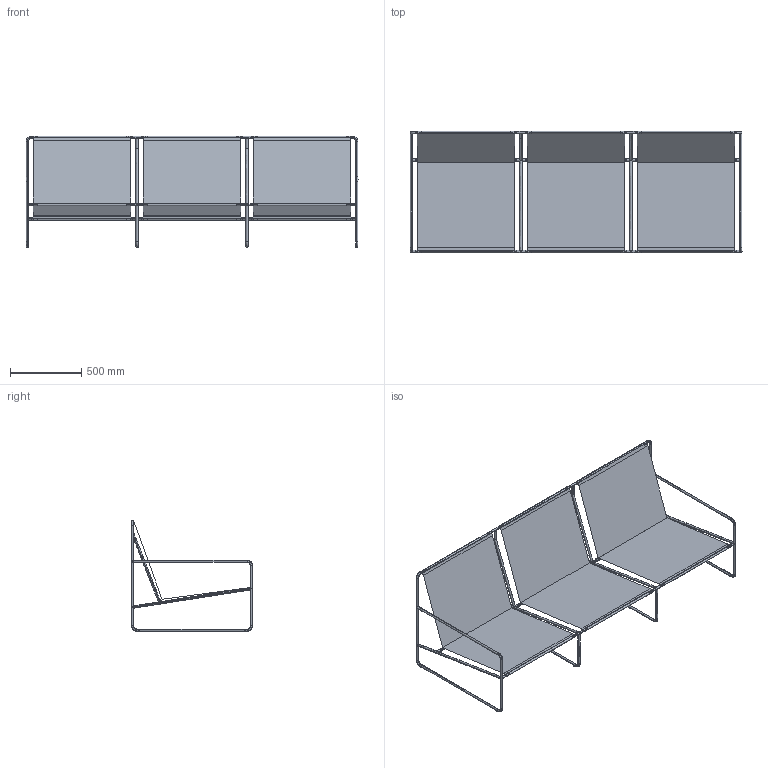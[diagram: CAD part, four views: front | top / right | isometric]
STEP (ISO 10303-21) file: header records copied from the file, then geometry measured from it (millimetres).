
FILE_DESCRIPTION(/* description */ (''),/* implementation_level */ '2;1');
FILE_NAME(/* name */ 'Desert Sofa_3seater',/* time_stamp */ '2022-02-09T14:57:38+01:00',/* author */ (''),/* organization */ (''),/* preprocessor_version */ 'ST-DEVELOPER v16.5',/* originating_system */ 'Rhino 7.14',/* authorisation */ '');
FILE_SCHEMA (('CONFIG_CONTROL_DESIGN'));
Length unit declared in the file: millimetre
Products named in the file (1): Document
Bounding box: 2332 x 851.98 x 783.51 mm (x, y, z)
Volume: 2621957.7 mm3; surface area: 4397997.1 mm2
Topology: 21 solids, 35 shells, 590 faces, 1621 edges, 957 vertices
Faces by surface type: cylinder 334, bspline 186, plane 70
Entity records: 28513 total; most frequent: CARTESIAN_POINT 18843, ORIENTED_EDGE 3038, EDGE_CURVE 1571, VERTEX_POINT 928, B_SPLINE_CURVE_WITH_KNOTS 806, EDGE_LOOP 679, ADVANCED_FACE 589, FACE_OUTER_BOUND 589
